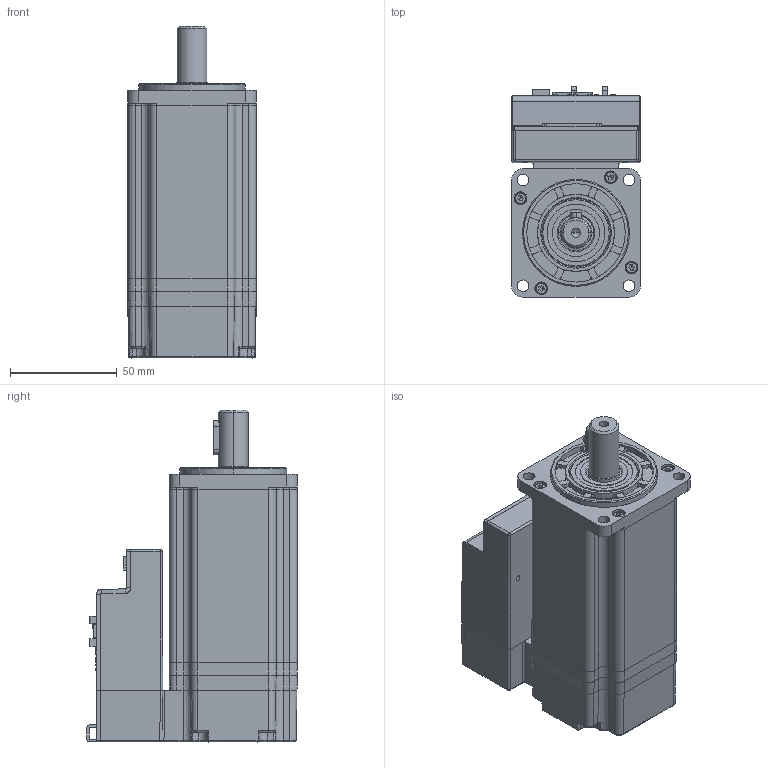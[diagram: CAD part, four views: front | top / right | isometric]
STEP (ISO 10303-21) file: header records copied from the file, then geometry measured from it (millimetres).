
FILE_DESCRIPTION (( 'STEP AP214' ), '1' );
FILE_NAME ('MD60(400W).STEP', '2021-01-05T19:53:02', ( '' ), ( '' ), 'SwSTEP 2.0', 'SolidWorks 2020', '' );
FILE_SCHEMA (( 'AUTOMOTIVE_DESIGN' ));
Length unit declared in the file: inch
Products named in the file (58): ZLH-100V330UF; 00; 00_2; MHM-ASM-3_ASM_5_ASM-1_PCB-61784; B04B-ZESK-D; _4571500; _100_4; 3D00_ASM; PCA_ASM; O0; 00_ASM_2; COVER_ASM; PCB1; SPRING_LOCK_WASHERS--NORM-18035; _10; MHM-ASM-3_ASM_5_ASM-1_PCB--7276; MD60(400W); PCA1_ASM; HEXAGON_SOCKET_HEAD_CAP_S-74654; _7367000_ASM; MHM-ASM-3_ASM_5_ASM-1_PCB-21971; 0226-22XX; _7451600; CIRCLIPS_FOR_HOLES--TYPE_-73814; 00_ASM_3; B16B-PUDSS-1; CIRCLIPS_FOR_HOLES--TYPE_-46292; _10_2; PC_7MM; COVER-1; DEEP_GROOVE_BALL_BEARINGS-16906; SPRING_LOCK_WASHERS--NORM-46433; REAR_COVER_ASM; MD60PCB2; PRODUCT_10385; _4513900_ASM; MHM-ASM-3_ASM_5_ASM-1_PCB-15676; CJTA2008WV-4P; CIRCLIPS_FOR_SHAFT--TYPE_A_LA_1; HEXAGON_SOCKET_HEAD_CAP_S-74807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
Assembly tree (72 placements, depth 7):
  MD60(400W)
    REAR_COVER_ASM
      3D00_ASM
        00_ASM
          HEXAGON_SOCKET_HEAD_CAP_S-45862  x4
          SPRING_LOCK_WASHERS--NORM-18035  x4
          PRODUCT_10385
          000
          HEXAGON_SOCKET_HEAD_CAP_S-74654  x4
          CIRCLIPS_FOR_SHAFT--TYPE_A_LA_1
          00
          _7451600
          _100
          _4571500
          CIRCLIPS_FOR_HOLES--TYPE_-46292
          _100_2
          O0  x2
          _7367000_ASM
            DEEP_GROOVE_BALL_BEARINGS-16906
            DEEP_GROOVE_BALL_BEARINGS-73536
            _4513900_ASM
              _10
            _100_3
          HEXAGON_SOCKET_HEAD_CAP_S-74807
          00_2
          CIRCLIPS_FOR_HOLES--TYPE_-73814
          00_ASM_2
            HEXAGON_SOCKET_HEAD_CAP_S-44990  x4
            _100_4
            _10_2
            _1000
          SPRING_LOCK_WASHERS--NORM-46433
          00_ASM_3
            MHM-ASM-3_ASM_5_ASM-1_PCB--4541
            MHM-ASM-3_ASM_5_ASM-1_PCB--7276
            MHM-ASM-3_ASM_5_ASM-1_PCB-15676
            MHM-ASM-3_ASM_5_ASM-1_PCB-19757
            MHM-ASM-3_ASM_5_ASM-1_PCB-21971
            MHM-ASM-3_ASM_5_ASM-1_PCB-61334
            MHM-ASM-3_ASM_5_ASM-1_PCB-61784
      PC_7MM
      TIM_PCB1
      PCA_ASM
        PCA1_ASM
          PCB1
          MD60PCB2
          B12B-PUDSS-1
        CJTA2008WV-4P
        ZLH-100V330UF
        0226-22XX
        19717
        B04B-ZESK-D  x2
        B16B-PUDSS-1
        PUDP-16V-S
      COVER_ASM
        COVER-1
        XJ  x2
    MD60HT_2019_01_08
Bounding box: 60 x 98.61 x 155.2 mm (x, y, z)
Volume: 242205.8 mm3; surface area: 188724.4 mm2
Topology: 63 solids, 63 shells, 4365 faces, 11291 edges, 7266 vertices
Faces by surface type: plane 2677, cylinder 1084, bspline 375, cone 212, torus 17
Entity records: 141862 total; most frequent: CARTESIAN_POINT 41615, ORIENTED_EDGE 20916, DIRECTION 19146, EDGE_CURVE 10458, LINE 7066, VECTOR 7066, VERTEX_POINT 6789, AXIS2_PLACEMENT_3D 6040
